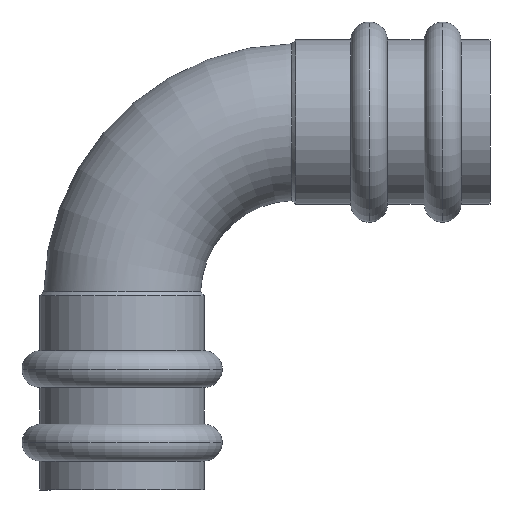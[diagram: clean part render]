
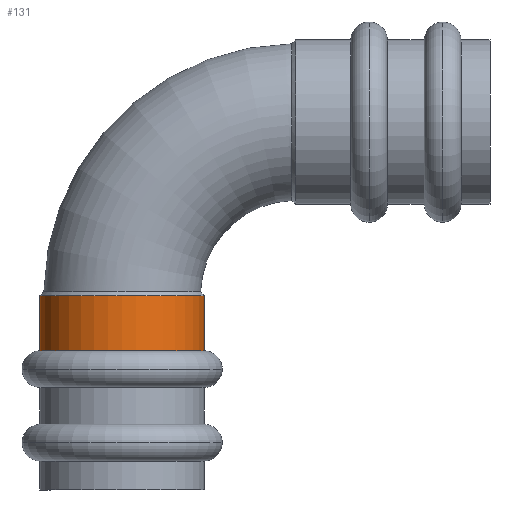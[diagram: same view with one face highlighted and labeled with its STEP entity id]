
A CAD part, front view. The second image highlights one B-rep face of the part: STEP entity #131.
In plain terms, the highlighted cylindrical face has radius 15.65 mm (diameter 31.3 mm), a partial arc.
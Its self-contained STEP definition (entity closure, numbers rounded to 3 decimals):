
#131=ADVANCED_FACE('',(#307),#308,.T.);
#307=FACE_OUTER_BOUND('',#543,.T.);
#308=CYLINDRICAL_SURFACE('',#544,15.65);
#543=EDGE_LOOP('',(#863,#864,#865,#866));
#544=AXIS2_PLACEMENT_3D('',#867,#868,#869);
#863=ORIENTED_EDGE('',*,*,#1356,.F.);
#864=ORIENTED_EDGE('',*,*,#1357,.T.);
#865=ORIENTED_EDGE('',*,*,#1358,.F.);
#866=ORIENTED_EDGE('',*,*,#1359,.F.);
#867=CARTESIAN_POINT('',(0.,0.0,31.75));
#868=DIRECTION('',(0.,0.0,-1.0));
#869=DIRECTION('',(1.0,0.0,0.));
#1356=EDGE_CURVE('',#1611,#1612,#1613,.T.);
#1357=EDGE_CURVE('',#1611,#1614,#1615,.T.);
#1358=EDGE_CURVE('',#1616,#1614,#1617,.T.);
#1359=EDGE_CURVE('',#1612,#1616,#1618,.T.);
#1611=VERTEX_POINT('',#2070);
#1612=VERTEX_POINT('',#2071);
#1613=LINE('',#2072,#2073);
#1614=VERTEX_POINT('',#2074);
#1615=CIRCLE('',#2075,15.65);
#1616=VERTEX_POINT('',#2076);
#1617=LINE('',#2077,#2078);
#1618=CIRCLE('',#2079,15.65);
#2070=CARTESIAN_POINT('',(15.65,0.,37.));
#2071=CARTESIAN_POINT('',(15.65,0.,26.5));
#2072=CARTESIAN_POINT('',(15.65,0.,31.75));
#2073=VECTOR('',#2584,1.0);
#2074=CARTESIAN_POINT('',(-15.65,0.,37.));
#2075=AXIS2_PLACEMENT_3D('',#2585,#2586,#2587);
#2076=CARTESIAN_POINT('',(-15.65,0.,26.5));
#2077=CARTESIAN_POINT('',(-15.65,0.,31.75));
#2078=VECTOR('',#2588,1.0);
#2079=AXIS2_PLACEMENT_3D('',#2589,#2590,#2591);
#2584=DIRECTION('',(0.,0.0,-1.0));
#2585=CARTESIAN_POINT('',(0.,0.0,37.));
#2586=DIRECTION('',(0.,0.0,-1.0));
#2587=DIRECTION('',(1.0,0.0,0.));
#2588=DIRECTION('',(0.,-0.0,1.0));
#2589=CARTESIAN_POINT('',(0.,0.0,26.5));
#2590=DIRECTION('',(0.,0.0,-1.0));
#2591=DIRECTION('',(1.0,0.0,0.));
